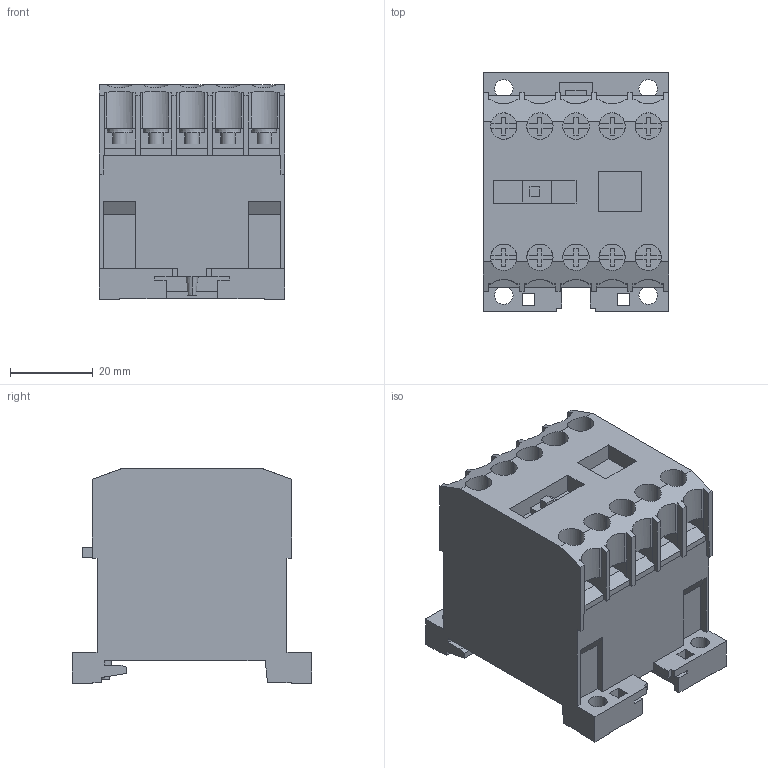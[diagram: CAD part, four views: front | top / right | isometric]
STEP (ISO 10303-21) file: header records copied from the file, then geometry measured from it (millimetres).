
FILE_DESCRIPTION( ( '' ), '1' );
FILE_NAME( '//expscmdclustefs.cadenas.external/client_exchange/iodir/jobs/output/wkb46318921_no0/STEP/051774_2_03.stp', '2012-06-25T15:41:38', ( '' ), ( '' ), ' ', ' ', ' ' );
FILE_SCHEMA( ( 'CONFIG_CONTROL_DESIGN' ) );
Length unit declared in the file: millimetre
Products named in the file (1): 1
Bounding box: 45 x 58 x 52 mm (x, y, z)
Volume: 90953.4 mm3; surface area: 21613.2 mm2
Topology: 1 solids, 1 shells, 485 faces, 1415 edges, 943 vertices
Faces by surface type: plane 405, cylinder 58, cone 22
Entity records: 16033 total; most frequent: CARTESIAN_POINT 2848, ORIENTED_EDGE 2830, DIRECTION 2607, EDGE_CURVE 1415, LINE 1191, VECTOR 1191, VERTEX_POINT 943, AXIS2_PLACEMENT_3D 708
